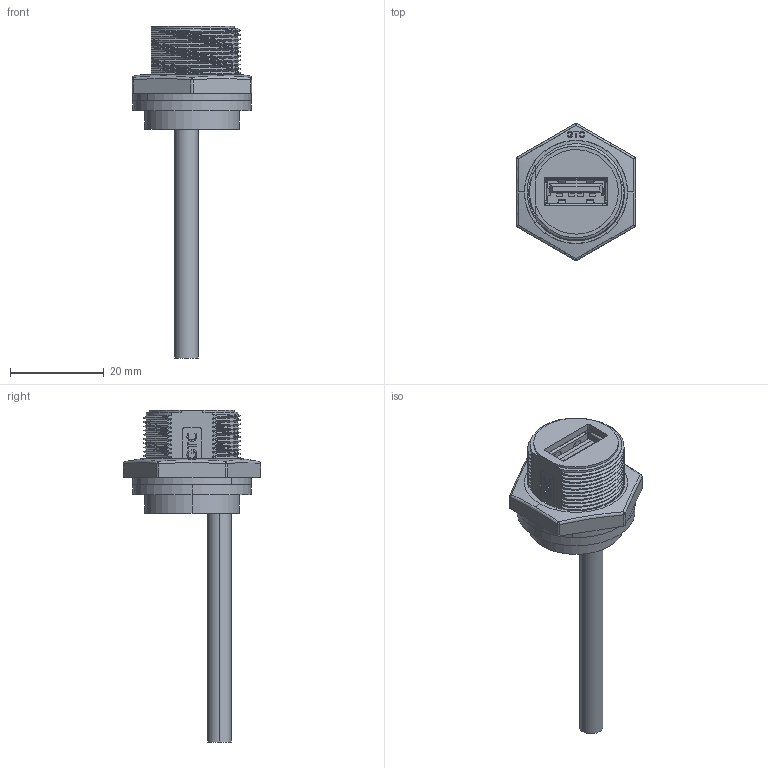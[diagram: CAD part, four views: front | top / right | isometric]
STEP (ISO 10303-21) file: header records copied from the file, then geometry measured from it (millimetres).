
FILE_DESCRIPTION (( 'STEP AP203' ), '1' );
FILE_NAME ('GT116300-03-XX.STEP', '2012-07-19T00:30:14', ( 'RD-07' ), ( '' ), 'SwSTEP 2.0', 'SolidWorks 2012', '' );
FILE_SCHEMA (( 'CONFIG_CONTROL_DESIGN' ));
Length unit declared in the file: millimetre
Products named in the file (11): GT116300-03-XX; CABLE; C3USB GLUE; 66153-00010_A2; 65153-00010; 59116-01001; 83002-F3201; 83002(PIN); 83002(BASE); 83002(FRAM); 60116-38101
Assembly tree (13 placements, depth 3):
  GT116300-03-XX
    60116-38101
    83002-F3201
      83002(FRAM)
      83002(BASE)
      83002(PIN)  x4
    59116-01001
    65153-00010
    66153-00010_A2
    C3USB GLUE
    CABLE
Bounding box: 25.4 x 29.17 x 70.7 mm (x, y, z)
Volume: 5669.1 mm3; surface area: 10166.8 mm2
Topology: 11 solids, 13 shells, 883 faces, 2475 edges, 1620 vertices
Faces by surface type: plane 536, cylinder 209, bspline 105, sphere 16, cone 12, torus 5
Entity records: 54013 total; most frequent: CARTESIAN_POINT 33444, ORIENTED_EDGE 4488, DIRECTION 3412, EDGE_CURVE 2249, VERTEX_POINT 1474, LINE 1364, VECTOR 1364, AXIS2_PLACEMENT_3D 1024
